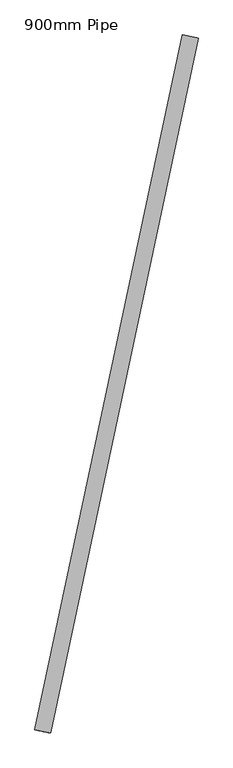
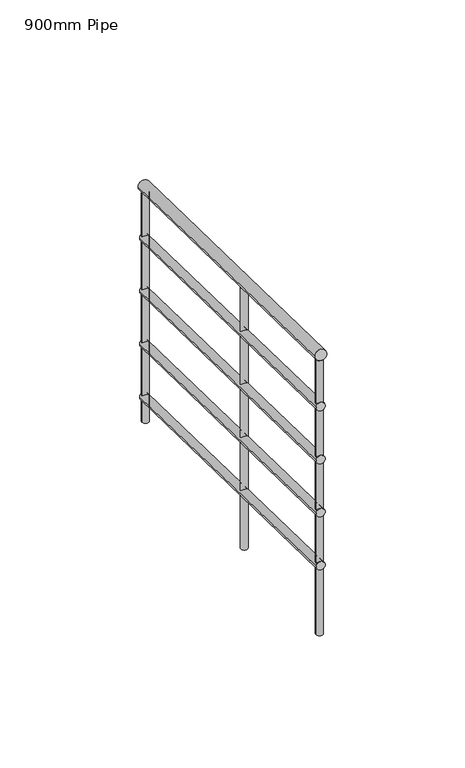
"""IFC4 building model written with IfcOpenShell, lengths in millimetres: railing geometry, 900mm Pipe."""

from ifc_helpers import new_model, si_unit, frame, origin, place, context, project, spatial, circle_curve, ellipse_curve, source, transform, mapped, element, save
from ifc_brep_helpers import plane_surface, cylinder_surface, advanced_brep


def railing_900mm_pipe_9d331aa4(model_context):
    return source(origin(), model_context, "Body", "AdvancedBrep", [
        advanced_brep(
        [(969756.8867008, 19154.3026426, 8258.3872443), (969796.0101907, 19145.9748256, 8258.3872443), (969389.166896, 17426.7812462, 8796.2695973), (969428.2903859, 17418.4534292, 8796.2695973)],
        [
            (0, 1, ellipse_curve(frame((969776.4484457, 19150.1387341, 8258.3872443), z_axis=(0.2081954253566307, 0.9780872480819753, 0.0), x_axis=(0.0, 0.0, -1.0)), 20.9068733, 20.0)),
            (1, 0, ellipse_curve(frame((969776.4484457, 19150.1387341, 8258.3872443), z_axis=(0.2081954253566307, 0.9780872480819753, 0.0), x_axis=(0.0, 0.0, -1.0)), 20.9068733, 20.0)),
            (2, 3, ellipse_curve(frame((969408.728641, 17422.6173377, 8796.2695973), z_axis=(-0.2081954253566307, -0.9780872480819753, 0.0), x_axis=(0.0, 0.0, -1.0)), 20.9068733, 20.0)),
            (3, 2, ellipse_curve(frame((969408.728641, 17422.6173377, 8796.2695973), z_axis=(-0.2081954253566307, -0.9780872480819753, 0.0), x_axis=(0.0, 0.0, -1.0)), 20.9068733, 20.0)),
            (1, 3),
            (2, 0),
        ],
        [
            plane_surface(frame((969776.4484457, 19150.1387341, 8279.2941176), z_axis=(0.2081954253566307, 0.9780872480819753, 0.0), x_axis=(0.9780872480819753, -0.2081954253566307, 0.0))),
            plane_surface(frame((969408.728641, 17422.6173377, 8817.1764706), z_axis=(-0.2081954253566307, -0.9780872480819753, 0.0), x_axis=(0.9780872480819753, -0.2081954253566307, 0.0))),
            cylinder_surface(frame((969775.2353822, 19144.4398482, 8260.1616537), z_axis=(0.19916457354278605, 0.9356609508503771, -0.2913280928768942), x_axis=(0.9780872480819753, -0.2081954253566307, 0.0)), 20.0),
        ],
        [
            (0, [[1, 2]]),
            (1, [[3, 4]]),
            (2, [[-2, 5, -3, 6]]),
            (2, [[-1, -6, -4, -5]]),
        ],
    ),
        advanced_brep(
        [(969761.777137, 19153.2616654, 8063.6139627), (969791.1197545, 19147.0158027, 8063.6139627), (969394.0573322, 17425.7402691, 8601.4963156), (969423.3999497, 17419.4944063, 8601.4963156)],
        [
            (0, 1, ellipse_curve(frame((969776.4484457, 19150.1387341, 8063.6139627), z_axis=(0.2081954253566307, 0.9780872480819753, 0.0), x_axis=(0.0, 0.0, -1.0)), 15.680155, 15.0)),
            (1, 0, ellipse_curve(frame((969776.4484457, 19150.1387341, 8063.6139627), z_axis=(0.2081954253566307, 0.9780872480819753, 0.0), x_axis=(0.0, 0.0, -1.0)), 15.680155, 15.0)),
            (2, 3, ellipse_curve(frame((969408.728641, 17422.6173377, 8601.4963156), z_axis=(-0.2081954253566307, -0.9780872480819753, 0.0), x_axis=(0.0, 0.0, -1.0)), 15.680155, 15.0)),
            (3, 2, ellipse_curve(frame((969408.728641, 17422.6173377, 8601.4963156), z_axis=(-0.2081954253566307, -0.9780872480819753, 0.0), x_axis=(0.0, 0.0, -1.0)), 15.680155, 15.0)),
            (0, 2),
            (3, 1),
        ],
        [
            plane_surface(frame((969776.4484457, 19150.1387341, 8079.2941176), z_axis=(0.2081954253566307, 0.9780872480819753, 0.0), x_axis=(0.9780872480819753, -0.2081954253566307, 0.0))),
            plane_surface(frame((969408.728641, 17422.6173377, 8617.1764706), z_axis=(-0.2081954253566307, -0.9780872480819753, 0.0), x_axis=(0.9780872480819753, -0.2081954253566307, 0.0))),
            cylinder_surface(frame((969775.5386481, 19145.8645697, 8064.9447697), z_axis=(0.19916457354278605, 0.9356609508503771, -0.2913280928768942), x_axis=(0.9780872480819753, -0.2081954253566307, 0.0)), 15.0),
        ],
        [
            (0, [[1, 2]]),
            (1, [[3, 4]]),
            (2, [[-1, 5, -4, 6]]),
            (2, [[-2, -6, -3, -5]]),
        ],
    ),
        advanced_brep(
        [(969761.777137, 19153.2616654, 7863.6139627), (969791.1197545, 19147.0158027, 7863.6139627), (969394.0573322, 17425.7402691, 8401.4963156), (969423.3999497, 17419.4944063, 8401.4963156)],
        [
            (0, 1, ellipse_curve(frame((969776.4484457, 19150.1387341, 7863.6139627), z_axis=(0.2081954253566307, 0.9780872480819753, 0.0), x_axis=(0.0, 0.0, -1.0)), 15.680155, 15.0)),
            (1, 0, ellipse_curve(frame((969776.4484457, 19150.1387341, 7863.6139627), z_axis=(0.2081954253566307, 0.9780872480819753, 0.0), x_axis=(0.0, 0.0, -1.0)), 15.680155, 15.0)),
            (2, 3, ellipse_curve(frame((969408.728641, 17422.6173377, 8401.4963156), z_axis=(-0.2081954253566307, -0.9780872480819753, 0.0), x_axis=(0.0, 0.0, -1.0)), 15.680155, 15.0)),
            (3, 2, ellipse_curve(frame((969408.728641, 17422.6173377, 8401.4963156), z_axis=(-0.2081954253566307, -0.9780872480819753, 0.0), x_axis=(0.0, 0.0, -1.0)), 15.680155, 15.0)),
            (0, 2),
            (3, 1),
        ],
        [
            plane_surface(frame((969776.4484457, 19150.1387341, 7879.2941176), z_axis=(0.2081954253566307, 0.9780872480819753, 0.0), x_axis=(0.9780872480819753, -0.2081954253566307, 0.0))),
            plane_surface(frame((969408.728641, 17422.6173377, 8417.1764706), z_axis=(-0.2081954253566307, -0.9780872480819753, 0.0), x_axis=(0.9780872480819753, -0.2081954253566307, 0.0))),
            cylinder_surface(frame((969775.5386481, 19145.8645697, 7864.9447697), z_axis=(0.19916457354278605, 0.9356609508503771, -0.2913280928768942), x_axis=(0.9780872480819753, -0.2081954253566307, 0.0)), 15.0),
        ],
        [
            (0, [[1, 2]]),
            (1, [[3, 4]]),
            (2, [[-1, 5, -4, 6]]),
            (2, [[-2, -6, -3, -5]]),
        ],
    ),
        advanced_brep(
        [(969761.777137, 19153.2616654, 7663.6139627), (969791.1197545, 19147.0158027, 7663.6139627), (969394.0573322, 17425.7402691, 8201.4963156), (969423.3999497, 17419.4944063, 8201.4963156)],
        [
            (0, 1, ellipse_curve(frame((969776.4484457, 19150.1387341, 7663.6139627), z_axis=(0.2081954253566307, 0.9780872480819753, 0.0), x_axis=(0.0, 0.0, -1.0)), 15.680155, 15.0)),
            (1, 0, ellipse_curve(frame((969776.4484457, 19150.1387341, 7663.6139627), z_axis=(0.2081954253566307, 0.9780872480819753, 0.0), x_axis=(0.0, 0.0, -1.0)), 15.680155, 15.0)),
            (2, 3, ellipse_curve(frame((969408.728641, 17422.6173377, 8201.4963156), z_axis=(-0.2081954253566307, -0.9780872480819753, 0.0), x_axis=(0.0, 0.0, -1.0)), 15.680155, 15.0)),
            (3, 2, ellipse_curve(frame((969408.728641, 17422.6173377, 8201.4963156), z_axis=(-0.2081954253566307, -0.9780872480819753, 0.0), x_axis=(0.0, 0.0, -1.0)), 15.680155, 15.0)),
            (0, 2),
            (3, 1),
        ],
        [
            plane_surface(frame((969776.4484457, 19150.1387341, 7679.2941176), z_axis=(0.2081954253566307, 0.9780872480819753, 0.0), x_axis=(0.9780872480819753, -0.2081954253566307, 0.0))),
            plane_surface(frame((969408.728641, 17422.6173377, 8217.1764706), z_axis=(-0.2081954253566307, -0.9780872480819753, 0.0), x_axis=(0.9780872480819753, -0.2081954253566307, 0.0))),
            cylinder_surface(frame((969775.5386481, 19145.8645697, 7664.9447697), z_axis=(0.19916457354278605, 0.9356609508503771, -0.2913280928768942), x_axis=(0.9780872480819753, -0.2081954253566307, 0.0)), 15.0),
        ],
        [
            (0, [[1, 2]]),
            (1, [[3, 4]]),
            (2, [[-1, 5, -4, 6]]),
            (2, [[-2, -6, -3, -5]]),
        ],
    ),
        advanced_brep(
        [(969761.777137, 19153.2616654, 7463.6139627), (969791.1197545, 19147.0158027, 7463.6139627), (969394.0573322, 17425.7402691, 8001.4963156), (969423.3999497, 17419.4944063, 8001.4963156)],
        [
            (0, 1, ellipse_curve(frame((969776.4484457, 19150.1387341, 7463.6139627), z_axis=(0.2081954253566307, 0.9780872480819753, 0.0), x_axis=(0.0, 0.0, -1.0)), 15.680155, 15.0)),
            (1, 0, ellipse_curve(frame((969776.4484457, 19150.1387341, 7463.6139627), z_axis=(0.2081954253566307, 0.9780872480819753, 0.0), x_axis=(0.0, 0.0, -1.0)), 15.680155, 15.0)),
            (2, 3, ellipse_curve(frame((969408.728641, 17422.6173377, 8001.4963156), z_axis=(-0.2081954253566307, -0.9780872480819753, 0.0), x_axis=(0.0, 0.0, -1.0)), 15.680155, 15.0)),
            (3, 2, ellipse_curve(frame((969408.728641, 17422.6173377, 8001.4963156), z_axis=(-0.2081954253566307, -0.9780872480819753, 0.0), x_axis=(0.0, 0.0, -1.0)), 15.680155, 15.0)),
            (0, 2),
            (3, 1),
        ],
        [
            plane_surface(frame((969776.4484457, 19150.1387341, 7479.2941176), z_axis=(0.2081954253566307, 0.9780872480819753, 0.0), x_axis=(0.9780872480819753, -0.2081954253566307, 0.0))),
            plane_surface(frame((969408.728641, 17422.6173377, 8017.1764706), z_axis=(-0.2081954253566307, -0.9780872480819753, 0.0), x_axis=(0.9780872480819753, -0.2081954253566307, 0.0))),
            cylinder_surface(frame((969775.5386481, 19145.8645697, 7464.9447697), z_axis=(0.19916457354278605, 0.9356609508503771, -0.2913280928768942), x_axis=(0.9780872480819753, -0.2081954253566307, 0.0)), 15.0),
        ],
        [
            (0, [[1, 2]]),
            (1, [[3, 4]]),
            (2, [[-1, 5, -4, 6]]),
            (2, [[-2, -6, -3, -5]]),
        ],
    ),
        advanced_brep(
        [(969580.479111, 18169.4490432, 8542.0183475), (969556.0269298, 18174.6539288, 8542.0183475), (969556.0269298, 18174.6539288, 7558.5882353), (969580.479111, 18169.4490432, 7558.5882353)],
        [
            (0, 1, ellipse_curve(frame((969568.2530204, 18172.051486, 8542.0183475), z_axis=(-0.06065317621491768, -0.2849442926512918, -0.95662319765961), x_axis=(-0.19916457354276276, -0.9356609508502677, 0.29132809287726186)), 13.0667958, 12.5)),
            (1, 2),
            (2, 3, circle_curve(frame((969568.2530204, 18172.051486, 7558.5882353), z_axis=(0.0, 0.0, 1.0), x_axis=(-0.9780872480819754, 0.20819542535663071, 0.0)), 12.5)),
            (3, 0),
            (3, 2, circle_curve(frame((969568.2530204, 18172.051486, 7558.5882353), z_axis=(0.0, 0.0, 1.0), x_axis=(-0.9780872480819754, 0.20819542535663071, 0.0)), 12.5)),
            (1, 0, ellipse_curve(frame((969568.2530204, 18172.051486, 8542.0183475), z_axis=(-0.06065317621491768, -0.2849442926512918, -0.95662319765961), x_axis=(-0.19916457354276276, -0.9356609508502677, 0.29132809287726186)), 13.0667958, 12.5)),
        ],
        [
            cylinder_surface(frame((969568.2530204, 18172.051486, 7458.5882353), z_axis=(0.0, 0.0, 1.0), x_axis=(-0.9780872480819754, 0.20819542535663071, 0.0)), 12.5),
            plane_surface(frame((969538.5959535, 18152.8041904, 8549.6317969), z_axis=(0.06065317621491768, 0.2849442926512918, 0.95662319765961), x_axis=(0.9780872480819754, -0.20819542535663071, 0.0))),
            plane_surface(frame((969549.0057248, 18201.7085528, 7558.5882353), z_axis=(0.0, 0.0, -1.0), x_axis=(0.9780872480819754, -0.20819542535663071, 0.0))),
        ],
        [
            (0, [[1, 2, 3, 4]]),
            (0, [[5, -2, 6, -4]]),
            (1, [[-6, -1]]),
            (2, [[-5, -3]]),
        ],
    ),
        advanced_brep(
        [(969423.5571744, 17432.2409855, 8771.5559993), (969399.1049932, 17437.4458711, 8771.5559993), (969399.1049932, 17437.4458711, 7737.8823529), (969423.5571744, 17432.2409855, 7737.8823529)],
        [
            (0, 1, ellipse_curve(frame((969411.3310838, 17434.8434283, 8771.5559993), z_axis=(-0.06065317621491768, -0.2849442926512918, -0.95662319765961), x_axis=(-0.19916457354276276, -0.9356609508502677, 0.29132809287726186)), 13.0667958, 12.5)),
            (1, 2),
            (2, 3, circle_curve(frame((969411.3310838, 17434.8434283, 7737.8823529), z_axis=(0.0, 0.0, 1.0), x_axis=(-0.9780872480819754, 0.20819542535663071, 0.0)), 12.5)),
            (3, 0),
            (3, 2, circle_curve(frame((969411.3310838, 17434.8434283, 7737.8823529), z_axis=(0.0, 0.0, 1.0), x_axis=(-0.9780872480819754, 0.20819542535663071, 0.0)), 12.5)),
            (1, 0, ellipse_curve(frame((969411.3310838, 17434.8434283, 8771.5559993), z_axis=(-0.06065317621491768, -0.2849442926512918, -0.95662319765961), x_axis=(-0.19916457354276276, -0.9356609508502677, 0.29132809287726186)), 13.0667958, 12.5)),
        ],
        [
            cylinder_surface(frame((969411.3310838, 17434.8434283, 7637.8823529), z_axis=(0.0, 0.0, 1.0), x_axis=(-0.9780872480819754, 0.20819542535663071, 0.0)), 12.5),
            plane_surface(frame((969381.6740169, 17415.5961328, 8779.1694487), z_axis=(0.06065317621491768, 0.2849442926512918, 0.95662319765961), x_axis=(0.9780872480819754, -0.20819542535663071, 0.0))),
            plane_surface(frame((969392.0837882, 17464.5004952, 7737.8823529), z_axis=(0.0, 0.0, -1.0), x_axis=(0.9780872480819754, -0.20819542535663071, 0.0))),
        ],
        [
            (0, [[1, 2, 3, 4]]),
            (0, [[5, -2, 6, -4]]),
            (1, [[-6, -1]]),
            (2, [[-5, -3]]),
        ],
    ),
        advanced_brep(
        [(969786.0720935, 19135.3102006, 8241.2870957), (969761.6199123, 19140.5150863, 8241.2870957), (969761.6199123, 19140.5150863, 7379.2941176), (969786.0720935, 19135.3102006, 7379.2941176)],
        [
            (0, 1, ellipse_curve(frame((969773.8460029, 19137.9126435, 8241.2870957), z_axis=(-0.06065317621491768, -0.2849442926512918, -0.95662319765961), x_axis=(-0.19916457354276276, -0.9356609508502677, 0.29132809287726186)), 13.0667958, 12.5)),
            (1, 2),
            (2, 3, circle_curve(frame((969773.8460029, 19137.9126435, 7379.2941176), z_axis=(0.0, 0.0, 1.0), x_axis=(-0.9780872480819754, 0.20819542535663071, 0.0)), 12.5)),
            (3, 0),
            (3, 2, circle_curve(frame((969773.8460029, 19137.9126435, 7379.2941176), z_axis=(0.0, 0.0, 1.0), x_axis=(-0.9780872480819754, 0.20819542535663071, 0.0)), 12.5)),
            (1, 0, ellipse_curve(frame((969773.8460029, 19137.9126435, 8241.2870957), z_axis=(-0.06065317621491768, -0.2849442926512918, -0.95662319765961), x_axis=(-0.19916457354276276, -0.9356609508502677, 0.29132809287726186)), 13.0667958, 12.5)),
        ],
        [
            cylinder_surface(frame((969773.8460029, 19137.9126435, 7279.2941176), z_axis=(0.0, 0.0, 1.0), x_axis=(-0.9780872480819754, 0.20819542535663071, 0.0)), 12.5),
            plane_surface(frame((969744.1889361, 19118.6653479, 8248.9005451), z_axis=(0.06065317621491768, 0.2849442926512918, 0.95662319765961), x_axis=(0.9780872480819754, -0.20819542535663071, 0.0))),
            plane_surface(frame((969754.5987074, 19167.5697103, 7379.2941176), z_axis=(0.0, 0.0, -1.0), x_axis=(0.9780872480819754, -0.20819542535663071, 0.0))),
        ],
        [
            (0, [[1, 2, 3, 4]]),
            (0, [[5, -2, 6, -4]]),
            (1, [[-6, -1]]),
            (2, [[-5, -3]]),
        ],
    ),
    ])


if __name__ == "__main__":
    model = new_model("IFC4")
    model_context = context("Model", 3, world=origin())
    ifc_project = project(units=[si_unit("LENGTHUNIT", "METRE", prefix="MILLI")], contexts=[model_context])
    site = spatial("IfcSite", under=ifc_project)
    building = spatial("IfcBuilding", under=site)
    placement = place(None, origin())
    railing_900mm_pipe_shape = railing_900mm_pipe_9d331aa4(model_context)
    element("IfcRailing", 1, ObjectType="900mm Pipe", at=placement, inside=building, context=model_context, shape_type="MappedRepresentation", body=[
        mapped(railing_900mm_pipe_shape, transform((0.0, 0.0, 0.0), x_axis=(1.0, 0.0, 0.0), y_axis=(0.0, 1.0, 0.0), z_axis=(0.0, 0.0, 1.0))),
    ])
    save(model, "model.ifc")
